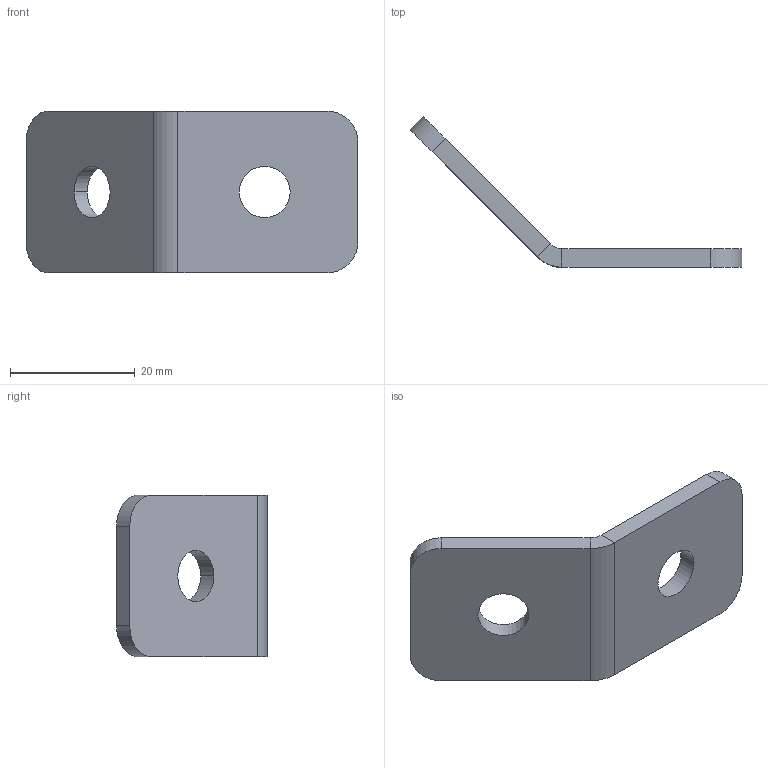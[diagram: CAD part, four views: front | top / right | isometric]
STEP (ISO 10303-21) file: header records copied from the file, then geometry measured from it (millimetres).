
FILE_DESCRIPTION (( 'STEP AP214' ), '1' );
FILE_NAME ('8401S.STEP', '2015-04-16T05:55:54', ( '' ), ( '' ), 'SwSTEP 2.0', 'SolidWorks 2014', '' );
FILE_SCHEMA (( 'AUTOMOTIVE_DESIGN' ));
Length unit declared in the file: millimetre
Products named in the file (1): 8401S
Bounding box: 53.33 x 24.21 x 26 mm (x, y, z)
Volume: 4381.9 mm3; surface area: 3572.5 mm2
Topology: 1 solids, 1 shells, 22 faces, 52 edges, 32 vertices
Faces by surface type: plane 12, cylinder 10
Entity records: 674 total; most frequent: DIRECTION 118, CARTESIAN_POINT 107, ORIENTED_EDGE 104, EDGE_CURVE 52, AXIS2_PLACEMENT_3D 43, LINE 32, VERTEX_POINT 32, VECTOR 32
